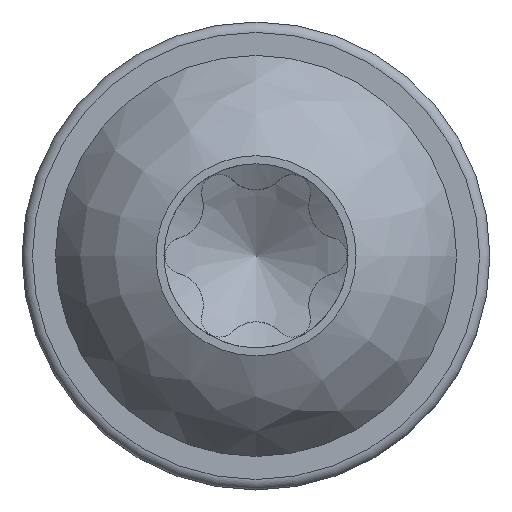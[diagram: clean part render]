
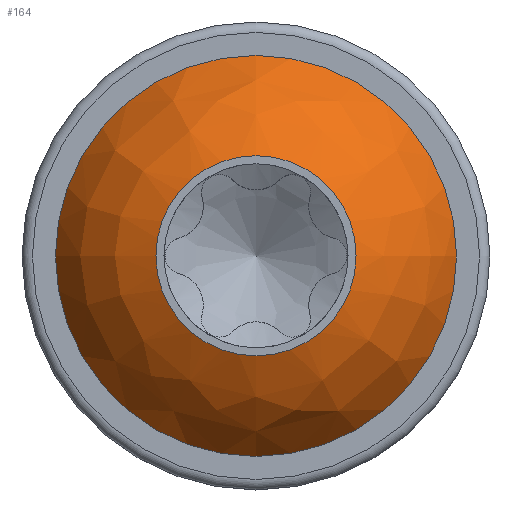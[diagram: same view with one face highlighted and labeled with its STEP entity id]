
A CAD part, top view. The second image highlights one B-rep face of the part: STEP entity #164.
In plain terms, the highlighted free-form (B-spline) face has degree [3, 3] with [4, 7] control points.
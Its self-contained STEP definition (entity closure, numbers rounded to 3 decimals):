
#116=(
BOUNDED_SURFACE()
B_SPLINE_SURFACE(3,3,((#1782,#1783,#1784,#1785,#1786,#1787,#1788),(#1789,
#1790,#1791,#1792,#1793,#1794,#1795),(#1796,#1797,#1798,#1799,#1800,#1801,
#1802),(#1803,#1804,#1805,#1806,#1807,#1808,#1809)),.UNSPECIFIED.,.F.,.T.,
 .F.)
B_SPLINE_SURFACE_WITH_KNOTS((4,4),(1,3,3,3,1),(0.,1.),(-0.5,0.,0.5,1.,1.5),
 .UNSPECIFIED.)
GEOMETRIC_REPRESENTATION_ITEM()
RATIONAL_B_SPLINE_SURFACE(((1.,0.333,0.333,1.,0.333,
0.333,1.),(0.951,0.317,0.317,
0.951,0.317,0.317,0.951),(0.951,
0.317,0.317,0.951,0.317,0.317,
0.951),(1.,0.333,0.333,1.,0.333,
0.333,1.)))
REPRESENTATION_ITEM('')
SURFACE()
);
#135=FACE_BOUND('',#272,.T.);
#136=FACE_BOUND('',#273,.T.);
#164=ADVANCED_FACE('',(#135,#136),#116,.T.);
#272=EDGE_LOOP('',(#376));
#273=EDGE_LOOP('',(#377));
#331=CIRCLE('',#810,1.929);
#332=CIRCLE('',#812,0.963);
#376=ORIENTED_EDGE('',*,*,#657,.F.);
#377=ORIENTED_EDGE('',*,*,#656,.T.);
#580=VERTEX_POINT('',#1778);
#581=VERTEX_POINT('',#1781);
#656=EDGE_CURVE('',#580,#580,#331,.T.);
#657=EDGE_CURVE('',#581,#581,#332,.T.);
#810=AXIS2_PLACEMENT_3D('',#1777,#874,#875);
#812=AXIS2_PLACEMENT_3D('',#1780,#878,#879);
#874=DIRECTION('',(0.,0.,1.));
#875=DIRECTION('',(1.,0.,0.));
#878=DIRECTION('',(0.,0.,1.));
#879=DIRECTION('',(1.,0.,0.));
#1777=CARTESIAN_POINT('',(0.,0.,0.5));
#1778=CARTESIAN_POINT('',(1.929,0.,0.5));
#1780=CARTESIAN_POINT('',(0.,0.,1.4));
#1781=CARTESIAN_POINT('',(0.963,0.,1.4));
#1782=CARTESIAN_POINT('',(0.963,0.,1.4));
#1783=CARTESIAN_POINT('',(0.963,1.925,1.4));
#1784=CARTESIAN_POINT('',(-0.963,1.925,1.4));
#1785=CARTESIAN_POINT('',(-0.963,0.,1.4));
#1786=CARTESIAN_POINT('',(-0.963,-1.925,1.4));
#1787=CARTESIAN_POINT('',(0.963,-1.925,1.4));
#1788=CARTESIAN_POINT('',(0.963,0.,1.4));
#1789=CARTESIAN_POINT('',(1.395,0.,1.236));
#1790=CARTESIAN_POINT('',(1.395,2.79,1.236));
#1791=CARTESIAN_POINT('',(-1.395,2.79,1.236));
#1792=CARTESIAN_POINT('',(-1.395,0.,1.236));
#1793=CARTESIAN_POINT('',(-1.395,-2.79,1.236));
#1794=CARTESIAN_POINT('',(1.395,-2.79,1.236));
#1795=CARTESIAN_POINT('',(1.395,0.,1.236));
#1796=CARTESIAN_POINT('',(1.734,0.,0.92));
#1797=CARTESIAN_POINT('',(1.734,3.468,0.92));
#1798=CARTESIAN_POINT('',(-1.734,3.468,0.92));
#1799=CARTESIAN_POINT('',(-1.734,0.,0.92));
#1800=CARTESIAN_POINT('',(-1.734,-3.468,0.92));
#1801=CARTESIAN_POINT('',(1.734,-3.468,0.92));
#1802=CARTESIAN_POINT('',(1.734,0.,0.92));
#1803=CARTESIAN_POINT('',(1.929,0.,0.5));
#1804=CARTESIAN_POINT('',(1.929,3.857,0.5));
#1805=CARTESIAN_POINT('',(-1.929,3.857,0.5));
#1806=CARTESIAN_POINT('',(-1.929,0.,0.5));
#1807=CARTESIAN_POINT('',(-1.929,-3.857,0.5));
#1808=CARTESIAN_POINT('',(1.929,-3.857,0.5));
#1809=CARTESIAN_POINT('',(1.929,0.,0.5));
